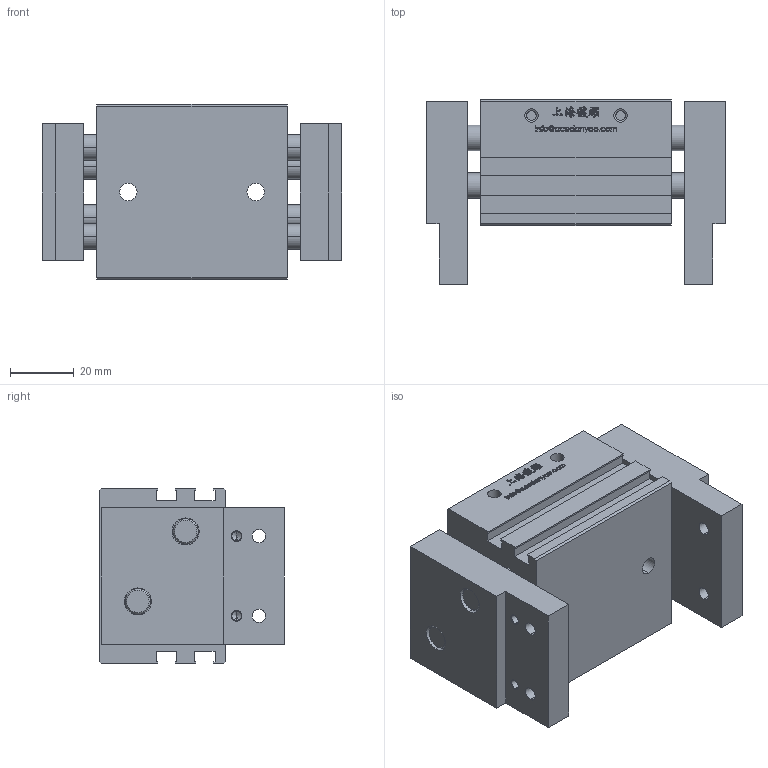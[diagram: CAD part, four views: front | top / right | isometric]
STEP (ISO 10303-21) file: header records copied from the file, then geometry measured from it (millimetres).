
FILE_DESCRIPTION (( 'STEP AP203' ), '1' );
FILE_NAME ('PLE-16-C-15+15-原始檔-組合-W106.04.20.STEP', '2017-04-20T05:30:28', ( 'DanyaoCAD' ), ( '' ), 'SwSTEP 2.0', 'SolidWorks 2016', '' );
FILE_SCHEMA (( 'CONFIG_CONTROL_DESIGN' ));
Length unit declared in the file: millimetre
Products named in the file (3): Corpo; Griffa; PLE-16-C-15+15-原始檔-組合-W106.04.20
Assembly tree (3 placements, depth 2):
  PLE-16-C-15+15-原始檔-組合-W106.04.20
    Corpo
    Griffa  x2
Bounding box: 94 x 58 x 55 mm (x, y, z)
Volume: 178508.6 mm3; surface area: 51014.4 mm2
Topology: 3 solids, 3 shells, 1002 faces, 2785 edges, 1824 vertices
Faces by surface type: bspline 640, plane 220, cylinder 81, cone 61
Entity records: 47337 total; most frequent: CARTESIAN_POINT 26669, ORIENTED_EDGE 5330, EDGE_CURVE 2665, DIRECTION 2188, VERTEX_POINT 1766, B_SPLINE_CURVE_WITH_KNOTS 1292, LINE 1218, VECTOR 1218
